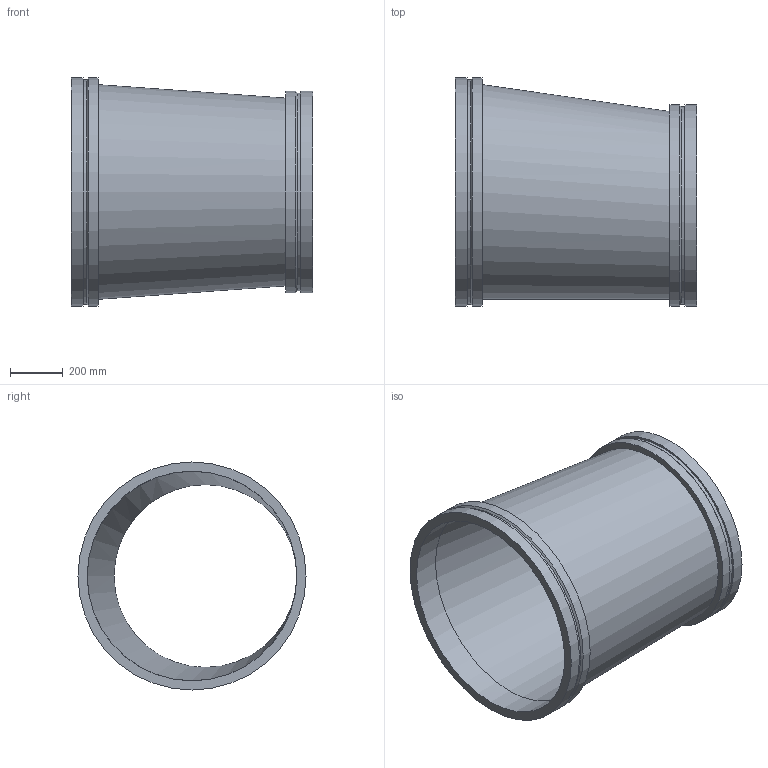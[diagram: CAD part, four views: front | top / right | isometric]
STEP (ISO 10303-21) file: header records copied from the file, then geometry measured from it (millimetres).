
FILE_DESCRIPTION(/* description */ ('VIC REDUCER ECCENTRIC No W51-VR','CAx-IF Rec.Pracs.---Representation and Presentation of Product Manufacturing Information (PMI)---4.0---2014-10-13'),/* implementation_level */ '2;1');
FILE_NAME(/* name */ 'C:\Users\kkamble\AppData\Roaming\Autodesk\ApplicationPlugins\Back Up\Victaulic_Vic-Ring_Reducer Eccentric_No W51 VR (AGR)\Victaulic_Vic-Ring_Reducer Eccentric_No W51 VR (AGR)_32.0x28.0 (800x700).stp',/* time_stamp */ '2020-09-10T11:50:26+05:00',/* author */ ('CONSTRUCTION PIPING SERVICES'),/* organization */ ('Victaulic'),/* preprocessor_version */ 'ST-DEVELOPER v17.2',/* originating_system */ 'Autodesk Inventor 2019',/* authorisation */ '');
FILE_SCHEMA (('AP242_MANAGED_MODEL_BASED_3D_ENGINEERING_MIM_LF { 1 0 10303 442 1 1 4 }'));
Length unit declared in the file: inch
Products named in the file (1): W51 VR-32.0x28.0
Bounding box: 914.4 x 863.6 x 863.6 mm (x, y, z)
Volume: 32782180.9 mm3; surface area: 4717115.1 mm2
Topology: 1 solids, 1 shells, 18 faces, 49 edges, 37 vertices
Faces by surface type: cylinder 8, plane 6, cone 2, bspline 2
Full cylindrical faces by diameter (mm): 692.15 x1, 747.522 x1, 762 x2, 793.75 x1, 849.122 x1, 863.6 x2
Entity records: 792 total; most frequent: CARTESIAN_POINT 158, DIRECTION 144, ORIENTED_EDGE 98, AXIS2_PLACEMENT_3D 67, EDGE_CURVE 49, CIRCLE 37, VERTEX_POINT 37, EDGE_LOOP 24
